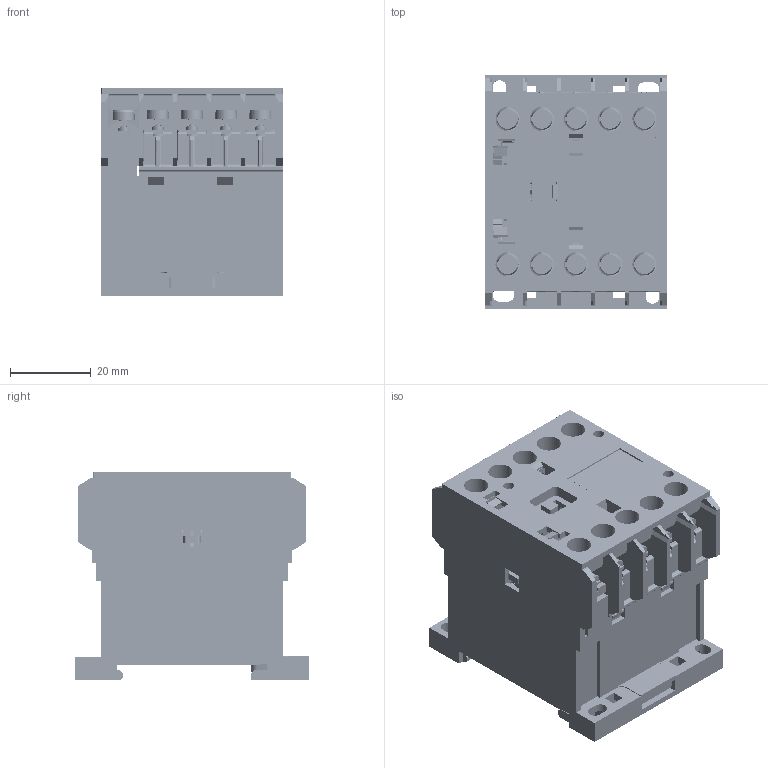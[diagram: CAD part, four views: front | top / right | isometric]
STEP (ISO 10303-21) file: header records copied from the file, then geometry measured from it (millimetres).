
FILE_DESCRIPTION((''),'2;1');
FILE_NAME('PRT0001','2023-07-17T09:32:44',('design1'),(''),'CREO PARAMETRIC BY PTC INC, 2022284','CREO PARAMETRIC BY PTC INC, 2022284','');
FILE_SCHEMA(('CONFIG_CONTROL_DESIGN'));
Products named in the file (1): PRT0001
Bounding box: 45 x 58 x 51.75 mm (x, y, z)
Volume: 1603.3 mm3; surface area: 71861.8 mm2
Topology: 36 solids, 57 shells, 5788 faces, 18887 edges, 13155 vertices
Faces by surface type: plane 3917, cylinder 1367, torus 212, extrusion 152, bspline 84, sphere 36, cone 20
Entity records: 221165 total; most frequent: CARTESIAN_POINT 52610, ORIENTED_EDGE 37493, DIRECTION 33013, EDGE_CURVE 18819, VERTEX_POINT 13155, VECTOR 13071, LINE 12919, AXIS2_PLACEMENT_3D 9971
